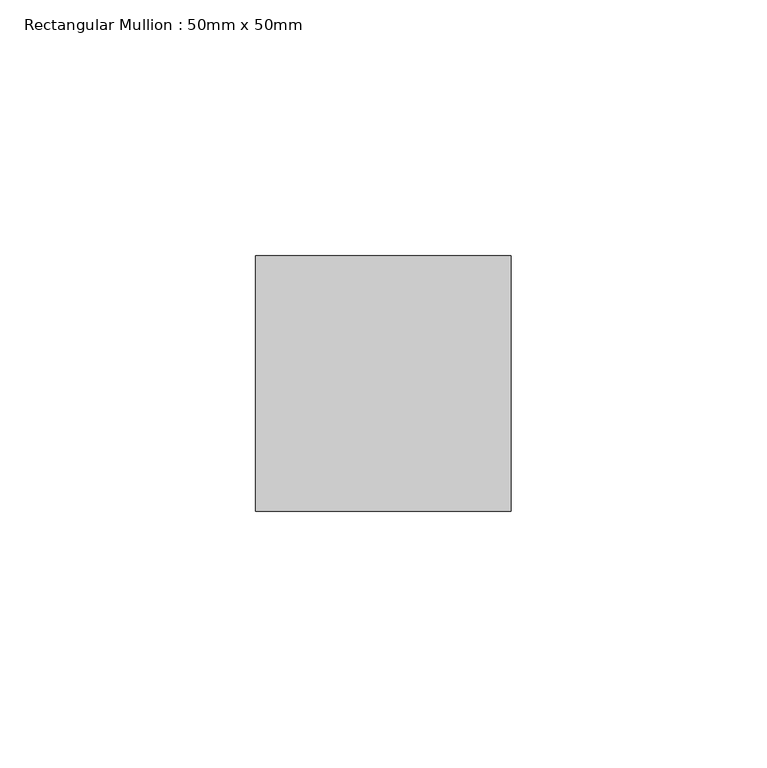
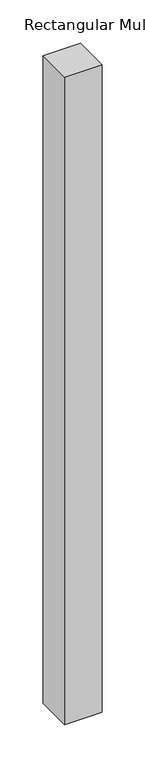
"""IFC4 building model written with IfcOpenShell, lengths in millimetres: member geometry, Rectangular Mullion : 50mm x 50mm."""

from ifc_helpers import new_model, si_unit, frame, origin, place, context, project, spatial, polyline, outline, extrude, source, transform, mapped, element, save


def rectangular_mullion_50mm_x_50mm_7f5505c2(model_context):
    return source(origin(), model_context, "Body", "SweptSolid", [
        extrude(outline(polyline([(0.0, 25.0), (0.0, -25.0), (-50.0, -25.0), (-50.0, 25.0), (0.0, 25.0)])), frame((0.0, 0.0, -915.0), z_axis=(0.0, 0.0, 1.0), x_axis=(1.0, 0.0, 0.0)), (0.0, 0.0, 1.0), 915.0),
    ])


if __name__ == "__main__":
    model = new_model("IFC4")
    model_context = context("Model", 3, world=origin())
    ifc_project = project(units=[si_unit("LENGTHUNIT", "METRE", prefix="MILLI")], contexts=[model_context])
    site = spatial("IfcSite", under=ifc_project)
    building = spatial("IfcBuilding", under=site)
    placement = place(None, origin())
    rectangular_mullion_50mm_x_50mm_shape = rectangular_mullion_50mm_x_50mm_7f5505c2(model_context)
    element("IfcMember", 1, ObjectType="Rectangular Mullion : 50mm x 50mm", at=placement, inside=building, context=model_context, shape_type="MappedRepresentation", body=[
        mapped(rectangular_mullion_50mm_x_50mm_shape, transform((0.0, 0.0, 0.0), x_axis=(1.0, 0.0, 0.0), y_axis=(0.0, 1.0, 0.0), z_axis=(0.0, 0.0, 1.0))),
    ])
    save(model, "model.ifc")
